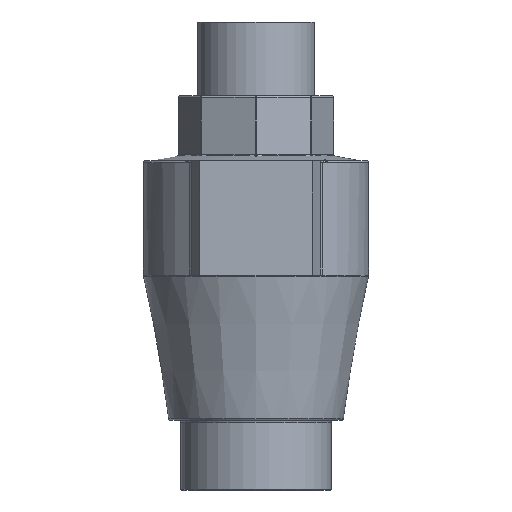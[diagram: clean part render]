
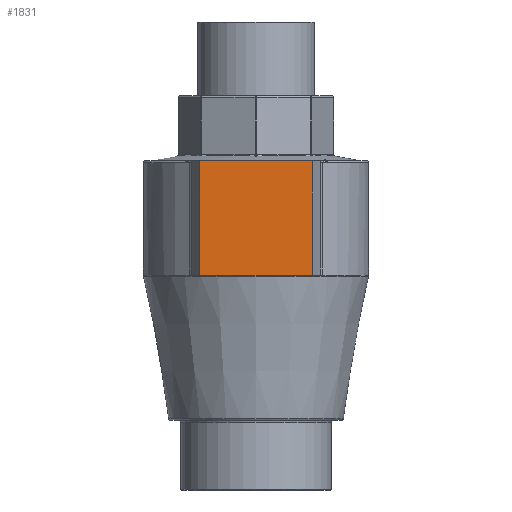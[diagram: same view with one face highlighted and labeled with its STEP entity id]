
A CAD part, front view. The second image highlights one B-rep face of the part: STEP entity #1831.
In plain terms, the highlighted planar face has unit normal (0, -1, 0).
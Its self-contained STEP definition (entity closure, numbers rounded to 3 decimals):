
#115=PLANE('',#2066);
#212=LINE('',#2964,#293);
#217=LINE('',#3077,#298);
#228=LINE('',#3683,#309);
#262=LINE('',#4382,#343);
#293=VECTOR('',#2235,10.);
#298=VECTOR('',#2248,10.);
#309=VECTOR('',#2359,10.);
#343=VECTOR('',#2575,10.);
#466=FACE_OUTER_BOUND('',#590,.T.);
#590=EDGE_LOOP('',(#1679,#1680,#1681,#1682));
#773=VERTEX_POINT('',#2961);
#774=VERTEX_POINT('',#2963);
#783=VERTEX_POINT('',#3074);
#784=VERTEX_POINT('',#3076);
#966=EDGE_CURVE('',#774,#773,#212,.T.);
#979=EDGE_CURVE('',#783,#784,#217,.T.);
#1035=EDGE_CURVE('',#774,#783,#228,.T.);
#1154=EDGE_CURVE('',#784,#773,#262,.T.);
#1679=ORIENTED_EDGE('',*,*,#1154,.F.);
#1680=ORIENTED_EDGE('',*,*,#979,.F.);
#1681=ORIENTED_EDGE('',*,*,#1035,.F.);
#1682=ORIENTED_EDGE('',*,*,#966,.T.);
#1831=ADVANCED_FACE('',(#466),#115,.T.);
#2066=AXIS2_PLACEMENT_3D('',#4381,#2573,#2574);
#2235=DIRECTION('',(0.,0.,-1.));
#2248=DIRECTION('',(0.,0.,-1.));
#2359=DIRECTION('',(1.,0.,0.));
#2573=DIRECTION('center_axis',(0.,-1.,0.));
#2574=DIRECTION('ref_axis',(-1.,0.,0.));
#2575=DIRECTION('',(-1.,0.,0.));
#2961=CARTESIAN_POINT('',(-16.,-33.,-72.083));
#2963=CARTESIAN_POINT('',(-16.,-33.,-39.433));
#2964=CARTESIAN_POINT('',(-16.,-33.,-39.433));
#3074=CARTESIAN_POINT('',(16.,-33.,-39.433));
#3076=CARTESIAN_POINT('',(16.,-33.,-72.083));
#3077=CARTESIAN_POINT('',(16.,-33.,-39.433));
#3683=CARTESIAN_POINT('',(-16.,-33.,-39.433));
#4381=CARTESIAN_POINT('Origin',(16.,-33.,-39.433));
#4382=CARTESIAN_POINT('',(8.,-33.,-72.083));
